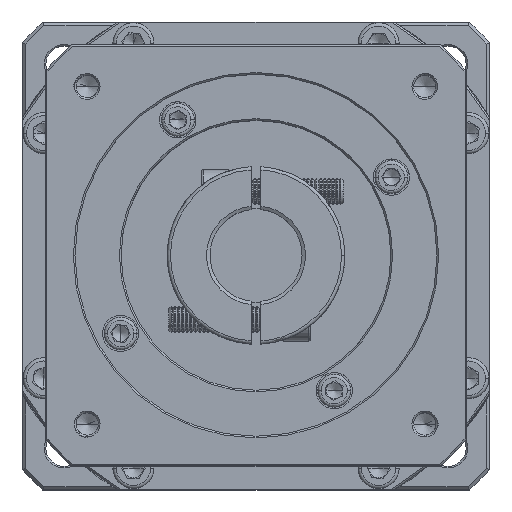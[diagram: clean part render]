
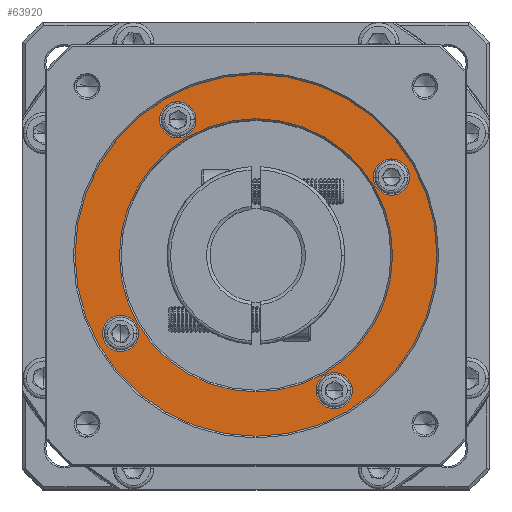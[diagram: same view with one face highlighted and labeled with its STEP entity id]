
A CAD part, top view. The second image highlights one B-rep face of the part: STEP entity #63920.
In plain terms, the highlighted planar face has unit normal (0, 0, 1).
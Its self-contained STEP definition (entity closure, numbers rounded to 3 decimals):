
#715 = VERTEX_POINT ( 'NONE', #47308 ) ;
#2228 = CARTESIAN_POINT ( 'NONE',  ( 69.835, -5.576, 182.266 ) ) ;
#2617 = AXIS2_PLACEMENT_3D ( 'NONE', #27349, #37856, #59156 ) ;
#2798 = CIRCLE ( 'NONE', #10474, 55. ) ;
#2952 = FACE_BOUND ( 'NONE', #69106, .T. ) ;
#7451 = AXIS2_PLACEMENT_3D ( 'NONE', #64303, #33890, #55188 ) ;
#7866 = VERTEX_POINT ( 'NONE', #117201 ) ;
#10474 = AXIS2_PLACEMENT_3D ( 'NONE', #38468, #48419, #111053 ) ;
#12040 = DIRECTION ( 'NONE',  ( 0., 0., -1. ) ) ;
#12059 = CIRCLE ( 'NONE', #20779, 5.5 ) ;
#14143 = VERTEX_POINT ( 'NONE', #81501 ) ;
#15073 = CARTESIAN_POINT ( 'NONE',  ( 28.699, -29.326, 182.266 ) ) ;
#15630 = ORIENTED_EDGE ( 'NONE', *, *, #57907, .T. ) ;
#19169 = EDGE_CURVE ( 'NONE', #60994, #122637, #12059, .T. ) ;
#19558 = AXIS2_PLACEMENT_3D ( 'NONE', #33698, #12040, #43211 ) ;
#20208 = VERTEX_POINT ( 'NONE', #70921 ) ;
#20779 = AXIS2_PLACEMENT_3D ( 'NONE', #82774, #71927, #60164 ) ;
#21308 = CARTESIAN_POINT ( 'NONE',  ( 69.835, -5.576, 182.266 ) ) ;
#22381 = FACE_OUTER_BOUND ( 'NONE', #129816, .T. ) ;
#23535 = AXIS2_PLACEMENT_3D ( 'NONE', #96817, #86818, #97714 ) ;
#26072 = EDGE_CURVE ( 'NONE', #84399, #62154, #84489, .T. ) ;
#27349 = CARTESIAN_POINT ( 'NONE',  ( 110.971, 18.174, 182.266 ) ) ;
#27882 = DIRECTION ( 'NONE',  ( 0., 0., -1. ) ) ;
#28632 = AXIS2_PLACEMENT_3D ( 'NONE', #48515, #119694, #99387 ) ;
#30469 = FACE_BOUND ( 'NONE', #47334, .T. ) ;
#31230 = CARTESIAN_POINT ( 'NONE',  ( 116.471, 18.174, 182.266 ) ) ;
#31330 = CIRCLE ( 'NONE', #130429, 41.5 ) ;
#33664 = CARTESIAN_POINT ( 'NONE',  ( 40.585, 35.56, 182.266 ) ) ;
#33698 = CARTESIAN_POINT ( 'NONE',  ( 46.085, 35.56, 182.266 ) ) ;
#33890 = DIRECTION ( 'NONE',  ( 0., 0., -1. ) ) ;
#35933 = DIRECTION ( 'NONE',  ( 1., 0., 0. ) ) ;
#36822 = AXIS2_PLACEMENT_3D ( 'NONE', #15073, #108498, #35933 ) ;
#37030 = CARTESIAN_POINT ( 'NONE',  ( 46.085, 35.56, 182.266 ) ) ;
#37856 = DIRECTION ( 'NONE',  ( 0., 0., -1. ) ) ;
#38468 = CARTESIAN_POINT ( 'NONE',  ( 69.835, -5.576, 182.266 ) ) ;
#39708 = EDGE_CURVE ( 'NONE', #122637, #60994, #108320, .T. ) ;
#40858 = ORIENTED_EDGE ( 'NONE', *, *, #121465, .T. ) ;
#41858 = EDGE_CURVE ( 'NONE', #97678, #715, #94183, .T. ) ;
#42992 = DIRECTION ( 'NONE',  ( 0., 0., -1. ) ) ;
#43211 = DIRECTION ( 'NONE',  ( 1., 0., 0. ) ) ;
#45765 = CIRCLE ( 'NONE', #55887, 55. ) ;
#47308 = CARTESIAN_POINT ( 'NONE',  ( 23.199, -29.326, 182.266 ) ) ;
#47334 = EDGE_LOOP ( 'NONE', ( #109557, #97126 ) ) ;
#48419 = DIRECTION ( 'NONE',  ( 0., 0., 1. ) ) ;
#48515 = CARTESIAN_POINT ( 'NONE',  ( 110.971, 18.174, 182.266 ) ) ;
#50135 = ORIENTED_EDGE ( 'NONE', *, *, #126354, .T. ) ;
#51381 = PLANE ( 'NONE',  #76997 ) ;
#52452 = CARTESIAN_POINT ( 'NONE',  ( 88.085, -46.712, 182.266 ) ) ;
#54396 = CARTESIAN_POINT ( 'NONE',  ( 99.085, -46.712, 182.266 ) ) ;
#55188 = DIRECTION ( 'NONE',  ( 1., 0., 0. ) ) ;
#55887 = AXIS2_PLACEMENT_3D ( 'NONE', #21308, #59912, #83027 ) ;
#56138 = CARTESIAN_POINT ( 'NONE',  ( 51.585, 35.56, 182.266 ) ) ;
#57570 = CARTESIAN_POINT ( 'NONE',  ( 124.835, -5.576, 182.266 ) ) ;
#57771 = EDGE_LOOP ( 'NONE', ( #63382, #71307 ) ) ;
#57907 = EDGE_CURVE ( 'NONE', #118746, #104365, #64919, .T. ) ;
#59156 = DIRECTION ( 'NONE',  ( 1., 0., 0. ) ) ;
#59912 = DIRECTION ( 'NONE',  ( 0., 0., 1. ) ) ;
#60157 = EDGE_CURVE ( 'NONE', #20208, #91418, #45765, .T. ) ;
#60164 = DIRECTION ( 'NONE',  ( 1., 0., 0. ) ) ;
#60994 = VERTEX_POINT ( 'NONE', #52452 ) ;
#62154 = VERTEX_POINT ( 'NONE', #130887 ) ;
#63067 = DIRECTION ( 'NONE',  ( 0., 0., -1. ) ) ;
#63382 = ORIENTED_EDGE ( 'NONE', *, *, #26072, .T. ) ;
#63920 = ADVANCED_FACE ( 'NONE', ( #22381, #129419, #116483, #30469, #2952, #74396 ), #51381, .T. ) ;
#64303 = CARTESIAN_POINT ( 'NONE',  ( 69.835, -5.576, 182.266 ) ) ;
#64864 = DIRECTION ( 'NONE',  ( 1., 0., 0. ) ) ;
#64919 = CIRCLE ( 'NONE', #106012, 5.5 ) ;
#69106 = EDGE_LOOP ( 'NONE', ( #97952, #15630 ) ) ;
#70921 = CARTESIAN_POINT ( 'NONE',  ( 14.835, -5.576, 182.266 ) ) ;
#71307 = ORIENTED_EDGE ( 'NONE', *, *, #79173, .T. ) ;
#71927 = DIRECTION ( 'NONE',  ( 0., 0., -1. ) ) ;
#74396 = FACE_BOUND ( 'NONE', #85681, .T. ) ;
#75588 = ORIENTED_EDGE ( 'NONE', *, *, #112005, .T. ) ;
#76997 = AXIS2_PLACEMENT_3D ( 'NONE', #104473, #83571, #104920 ) ;
#77097 = AXIS2_PLACEMENT_3D ( 'NONE', #96143, #63067, #64864 ) ;
#79173 = EDGE_CURVE ( 'NONE', #62154, #84399, #94160, .T. ) ;
#81501 = CARTESIAN_POINT ( 'NONE',  ( 28.335, -5.576, 182.266 ) ) ;
#81760 = EDGE_CURVE ( 'NONE', #104365, #118746, #95098, .T. ) ;
#82774 = CARTESIAN_POINT ( 'NONE',  ( 93.585, -46.712, 182.266 ) ) ;
#83027 = DIRECTION ( 'NONE',  ( 1., 0., 0. ) ) ;
#83571 = DIRECTION ( 'NONE',  ( 0., 0., 1. ) ) ;
#83654 = EDGE_LOOP ( 'NONE', ( #50135, #93691 ) ) ;
#84399 = VERTEX_POINT ( 'NONE', #31230 ) ;
#84489 = CIRCLE ( 'NONE', #2617, 5.5 ) ;
#85681 = EDGE_LOOP ( 'NONE', ( #86091, #75588 ) ) ;
#86091 = ORIENTED_EDGE ( 'NONE', *, *, #41858, .T. ) ;
#86818 = DIRECTION ( 'NONE',  ( 0., 0., -1. ) ) ;
#86954 = CIRCLE ( 'NONE', #7451, 41.5 ) ;
#91418 = VERTEX_POINT ( 'NONE', #57570 ) ;
#93691 = ORIENTED_EDGE ( 'NONE', *, *, #117331, .T. ) ;
#94160 = CIRCLE ( 'NONE', #28632, 5.5 ) ;
#94183 = CIRCLE ( 'NONE', #77097, 5.5 ) ;
#95098 = CIRCLE ( 'NONE', #19558, 5.5 ) ;
#96143 = CARTESIAN_POINT ( 'NONE',  ( 28.699, -29.326, 182.266 ) ) ;
#96817 = CARTESIAN_POINT ( 'NONE',  ( 93.585, -46.712, 182.266 ) ) ;
#97126 = ORIENTED_EDGE ( 'NONE', *, *, #19169, .T. ) ;
#97678 = VERTEX_POINT ( 'NONE', #107104 ) ;
#97714 = DIRECTION ( 'NONE',  ( 1., 0., 0. ) ) ;
#97952 = ORIENTED_EDGE ( 'NONE', *, *, #81760, .T. ) ;
#99387 = DIRECTION ( 'NONE',  ( 1., 0., 0. ) ) ;
#104365 = VERTEX_POINT ( 'NONE', #56138 ) ;
#104473 = CARTESIAN_POINT ( 'NONE',  ( 69.835, -5.576, 182.266 ) ) ;
#104920 = DIRECTION ( 'NONE',  ( 1., 0., 0. ) ) ;
#105616 = DIRECTION ( 'NONE',  ( 1., 0., 0. ) ) ;
#105921 = CIRCLE ( 'NONE', #36822, 5.5 ) ;
#106012 = AXIS2_PLACEMENT_3D ( 'NONE', #37030, #27882, #109197 ) ;
#107104 = CARTESIAN_POINT ( 'NONE',  ( 34.199, -29.326, 182.266 ) ) ;
#108320 = CIRCLE ( 'NONE', #23535, 5.5 ) ;
#108498 = DIRECTION ( 'NONE',  ( 0., 0., -1. ) ) ;
#109197 = DIRECTION ( 'NONE',  ( 1., 0., 0. ) ) ;
#109557 = ORIENTED_EDGE ( 'NONE', *, *, #39708, .T. ) ;
#111053 = DIRECTION ( 'NONE',  ( 1., 0., 0. ) ) ;
#112005 = EDGE_CURVE ( 'NONE', #715, #97678, #105921, .T. ) ;
#116483 = FACE_BOUND ( 'NONE', #57771, .T. ) ;
#117201 = CARTESIAN_POINT ( 'NONE',  ( 111.335, -5.576, 182.266 ) ) ;
#117331 = EDGE_CURVE ( 'NONE', #14143, #7866, #31330, .T. ) ;
#118746 = VERTEX_POINT ( 'NONE', #33664 ) ;
#119694 = DIRECTION ( 'NONE',  ( 0., 0., -1. ) ) ;
#121465 = EDGE_CURVE ( 'NONE', #91418, #20208, #2798, .T. ) ;
#122637 = VERTEX_POINT ( 'NONE', #54396 ) ;
#124194 = ORIENTED_EDGE ( 'NONE', *, *, #60157, .T. ) ;
#126354 = EDGE_CURVE ( 'NONE', #7866, #14143, #86954, .T. ) ;
#129419 = FACE_BOUND ( 'NONE', #83654, .T. ) ;
#129816 = EDGE_LOOP ( 'NONE', ( #40858, #124194 ) ) ;
#130429 = AXIS2_PLACEMENT_3D ( 'NONE', #2228, #42992, #105616 ) ;
#130887 = CARTESIAN_POINT ( 'NONE',  ( 105.471, 18.174, 182.266 ) ) ;
